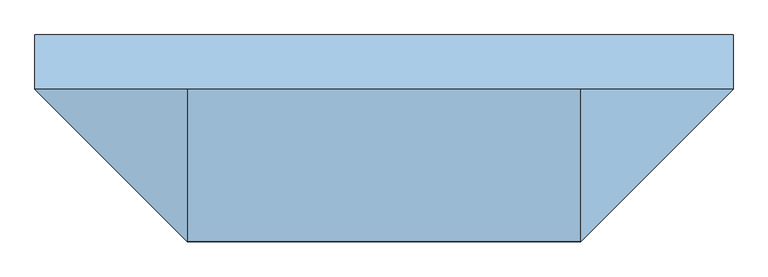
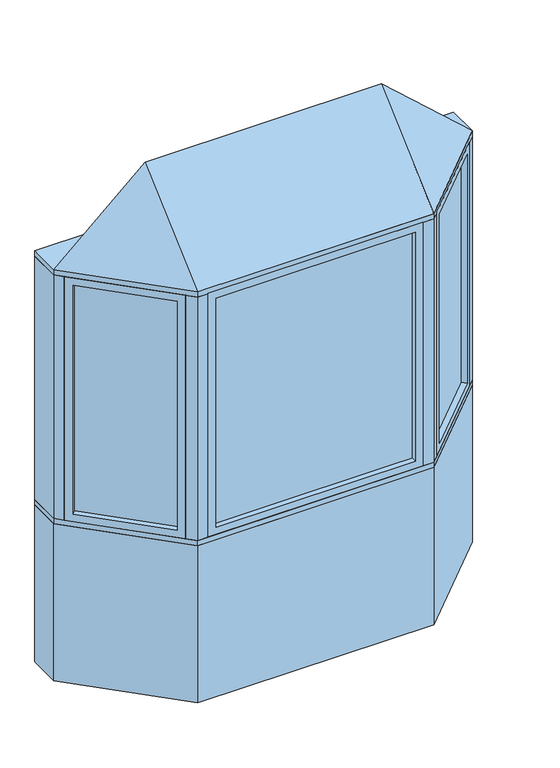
"""IFC4 building model written with IfcOpenShell, lengths in millimetres: window geometry, Pollard_Windows_Tudor Casement Bows and Bays : AML-BAY 45 AFR0612-08-500."""

from ifc_helpers import new_model, si_unit, frame, origin, origin_with_axes, place, context, project, spatial, polyline, outline, extrude, faceted_brep, source, transform, mapped, element, save


def window_a5539cdd(model_context):
    return source(origin(), model_context, "Body", "SolidModel", [
        extrude(outline(polyline([(910.5964271, -104.763169), (584.824814, -430.5347822), (581.2327115, -426.9426797), (907.0043247, -101.1710666), (910.5964271, -104.763169)])), frame((0.0, 0.0, 823.1628), z_axis=(0.0, 0.0, 1.0), x_axis=(1.0, 0.0, 0.0)), (0.0, 0.0, 1.0), 1153.6704),
        faceted_brep([(901.616171, -113.7434252, 835.8628), (919.5766833, -131.7039374, 835.8628), (919.5766833, -131.7039374, 1964.1332), (901.616171, -113.7434252, 1964.1332), (907.0043247, -101.1710666, 823.1628), (910.5964271, -104.763169, 823.1628), (910.5964271, -104.763169, 1976.8332), (907.0043247, -101.1710666, 1976.8332), (880.0635563, -92.1908105, 835.8628), (898.0240686, -110.1513227, 835.8628), (898.0240686, -110.1513227, 1964.1332), (880.0635563, -92.1908105, 1964.1332), (944.9369265, -106.3436941, 799.998), (905.4237996, -66.8305672, 799.998), (905.4237996, -66.8305672, 1999.998), (944.9369265, -106.3436941, 1999.998), (611.7655823, -439.5150383, 1964.1332), (593.8050701, -421.5545261, 1964.1332), (584.824814, -430.5347822, 1976.8332), (581.2327115, -426.9426797, 1976.8332), (590.2129677, -417.9624236, 1964.1332), (572.2524554, -400.0019114, 1964.1332), (546.8922121, -425.3621547, 1999.998), (586.4053391, -464.8752816, 1999.998), (611.7655823, -439.5150383, 835.8628), (593.8050701, -421.5545261, 835.8628), (584.824814, -430.5347822, 823.1628), (581.2327115, -426.9426797, 823.1628), (590.2129677, -417.9624236, 835.8628), (572.2524554, -400.0019114, 835.8628), (546.8922121, -425.3621547, 799.998), (586.4053391, -464.8752816, 799.998)], [[[0, 1, 2, 3]], [[4, 5, 6, 7]], [[8, 9, 10, 11]], [[12, 13, 14, 15]], [[3, 2, 16, 17]], [[7, 6, 18, 19]], [[11, 10, 20, 21]], [[15, 14, 22, 23]], [[17, 16, 24, 25]], [[19, 18, 26, 27]], [[21, 20, 28, 29]], [[23, 22, 30, 31]], [[25, 24, 1, 0]], [[5, 26, 18, 6], [3, 17, 25, 0]], [[27, 26, 5, 4]], [[7, 19, 27, 4], [9, 28, 20, 10]], [[29, 28, 9, 8]], [[13, 30, 22, 14], [11, 21, 29, 8]], [[31, 30, 13, 12]], [[15, 23, 31, 12], [1, 24, 16, 2]]]),
        extrude(outline(polyline([(-584.824814, -430.5347822), (-910.5964271, -104.763169), (-907.0043247, -101.1710666), (-581.2327115, -426.9426797), (-584.824814, -430.5347822)])), frame((0.0, 0.0, 823.1628), z_axis=(0.0, 0.0, 1.0), x_axis=(1.0, 0.0, 0.0)), (0.0, 0.0, 1.0), 1153.6704),
        faceted_brep([(-590.2129677, -417.9624236, 1964.1332), (-572.2524554, -400.0019114, 1964.1332), (-572.2524554, -400.0019114, 835.8628), (-590.2129677, -417.9624236, 835.8628), (-584.824814, -430.5347822, 1976.8332), (-581.2327115, -426.9426797, 1976.8332), (-581.2327115, -426.9426797, 823.1628), (-584.824814, -430.5347822, 823.1628), (-611.7655823, -439.5150383, 1964.1332), (-593.8050701, -421.5545261, 1964.1332), (-593.8050701, -421.5545261, 835.8628), (-611.7655823, -439.5150383, 835.8628), (-546.8922121, -425.3621547, 1999.998), (-586.4053391, -464.8752816, 1999.998), (-586.4053391, -464.8752816, 799.998), (-546.8922121, -425.3621547, 799.998), (-880.0635563, -92.1908105, 835.8628), (-898.0240686, -110.1513227, 835.8628), (-907.0043247, -101.1710666, 823.1628), (-910.5964271, -104.763169, 823.1628), (-901.616171, -113.7434252, 835.8628), (-919.5766833, -131.7039374, 835.8628), (-944.9369265, -106.3436941, 799.998), (-905.4237996, -66.8305672, 799.998), (-880.0635563, -92.1908105, 1964.1332), (-898.0240686, -110.1513227, 1964.1332), (-907.0043247, -101.1710666, 1976.8332), (-910.5964271, -104.763169, 1976.8332), (-901.616171, -113.7434252, 1964.1332), (-919.5766833, -131.7039374, 1964.1332), (-944.9369265, -106.3436941, 1999.998), (-905.4237996, -66.8305672, 1999.998)], [[[0, 1, 2, 3]], [[4, 5, 6, 7]], [[8, 9, 10, 11]], [[12, 13, 14, 15]], [[3, 2, 16, 17]], [[7, 6, 18, 19]], [[11, 10, 20, 21]], [[15, 14, 22, 23]], [[17, 16, 24, 25]], [[19, 18, 26, 27]], [[21, 20, 28, 29]], [[23, 22, 30, 31]], [[15, 23, 31, 12], [1, 24, 16, 2]], [[25, 24, 1, 0]], [[5, 26, 18, 6], [3, 17, 25, 0]], [[27, 26, 5, 4]], [[7, 19, 27, 4], [9, 28, 20, 10]], [[29, 28, 9, 8]], [[13, 30, 22, 14], [11, 21, 29, 8]], [[31, 30, 13, 12]]]),
        extrude(outline(polyline([(477.8852, -474.8306207), (-477.8852, -474.8306207), (-477.8852, -469.7506207), (477.8852, -469.7506207), (477.8852, -474.8306207)])), frame((0.0, 0.0, 823.1628), z_axis=(0.0, 0.0, 1.0), x_axis=(1.0, 0.0, 0.0)), (0.0, 0.0, 1.0), 1153.6704),
        faceted_brep([(465.1852, -474.8306207, 835.8628), (465.1852, -500.2306207, 835.8628), (465.1852, -500.2306207, 1964.1332), (465.1852, -474.8306207, 1964.1332), (477.8852, -469.7506207, 823.1628), (477.8852, -474.8306207, 823.1628), (477.8852, -474.8306207, 1976.8332), (477.8852, -469.7506207, 1976.8332), (465.1852, -444.3506207, 835.8628), (465.1852, -469.7506207, 835.8628), (465.1852, -469.7506207, 1964.1332), (465.1852, -444.3506207, 1964.1332), (501.05, -500.2306207, 799.998), (501.05, -444.3506207, 799.998), (501.05, -444.3506207, 1999.998), (501.05, -500.2306207, 1999.998), (-465.1852, -500.2306207, 1964.1332), (-465.1852, -474.8306207, 1964.1332), (-477.8852, -474.8306207, 1976.8332), (-477.8852, -469.7506207, 1976.8332), (-465.1852, -469.7506207, 1964.1332), (-465.1852, -444.3506207, 1964.1332), (-501.05, -444.3506207, 1999.998), (-501.05, -500.2306207, 1999.998), (-465.1852, -500.2306207, 835.8628), (-465.1852, -474.8306207, 835.8628), (-477.8852, -474.8306207, 823.1628), (-477.8852, -469.7506207, 823.1628), (-465.1852, -469.7506207, 835.8628), (-465.1852, -444.3506207, 835.8628), (-501.05, -444.3506207, 799.998), (-501.05, -500.2306207, 799.998)], [[[0, 1, 2, 3]], [[4, 5, 6, 7]], [[8, 9, 10, 11]], [[12, 13, 14, 15]], [[3, 2, 16, 17]], [[7, 6, 18, 19]], [[11, 10, 20, 21]], [[15, 14, 22, 23]], [[17, 16, 24, 25]], [[19, 18, 26, 27]], [[21, 20, 28, 29]], [[23, 22, 30, 31]], [[15, 23, 31, 12], [1, 24, 16, 2]], [[25, 24, 1, 0]], [[5, 26, 18, 6], [3, 17, 25, 0]], [[27, 26, 5, 4]], [[7, 19, 27, 4], [9, 28, 20, 10]], [[29, 28, 9, 8]], [[13, 30, 22, 14], [11, 21, 29, 8]], [[31, 30, 13, 12]]]),
        faceted_brep([(976.5, -74.7806207, 2025.398), (551.05, -500.2306207, 2025.398), (-551.05, -500.2306207, 2025.398), (-976.5, -74.7806207, 2025.398), (-551.05, -74.7806207, 2406.398), (551.05, -74.7806207, 2406.398)], [[[0, 1, 2, 3]], [[3, 2, 4]], [[2, 1, 5, 4]], [[1, 0, 5]], [[0, 3, 4, 5]]]),
        extrude(outline(polyline([(-976.5, 77.6193793), (976.5, 77.6193793), (976.5, -74.7806207), (551.05, -500.2306207), (-551.05, -500.2306207), (-976.5, -74.7806207), (-976.5, 77.6193793)])), frame((0.0, 0.0, 1999.998), z_axis=(0.0, 0.0, 1.0), x_axis=(1.0, 0.0, 0.0)), (0.0, 0.0, 1.0), 25.4),
        extrude(outline(polyline([(-976.5, -74.7806207), (-976.5, 77.6193793), (-913.3738531, 77.6193793), (-913.3738531, -74.7806207), (-944.9369265, -106.3436941), (-976.5, -74.7806207)])), frame((0.0, 0.0, 799.998), z_axis=(0.0, 0.0, 1.0), x_axis=(1.0, 0.0, 0.0)), (0.0, 0.0, 1.0), 1200.0),
        extrude(outline(polyline([(976.5, 77.6193793), (976.5, -74.7806207), (944.9369265, -106.3436941), (913.3738531, -74.7806207), (913.3738531, 77.6193793), (976.5, 77.6193793)])), frame((0.0, 0.0, 799.998), z_axis=(0.0, 0.0, 1.0), x_axis=(1.0, 0.0, 0.0)), (0.0, 0.0, 1.0), 1200.0),
        extrude(outline(polyline([(551.05, -500.2306207), (501.05, -500.2306207), (501.05, -450.2306207), (530.3393219, -450.2306207), (551.05, -429.5199425), (586.4053391, -464.8752816), (551.05, -500.2306207)])), frame((0.0, 0.0, 799.998), z_axis=(0.0, 0.0, 1.0), x_axis=(1.0, 0.0, 0.0)), (0.0, 0.0, 1.0), 1200.0),
        extrude(outline(polyline([(-551.05, -500.2306207), (-586.4053391, -464.8752816), (-551.05, -429.5199425), (-530.3393219, -450.2306207), (-501.05, -450.2306207), (-501.05, -500.2306207), (-551.05, -500.2306207)])), frame((0.0, 0.0, 799.998), z_axis=(0.0, 0.0, 1.0), x_axis=(1.0, 0.0, 0.0)), (0.0, 0.0, 1.0), 1200.0),
        extrude(outline(polyline([(-551.05, -500.2306207), (-976.5, -74.7806207), (-976.5, 77.6193793), (-913.3738531, 77.6193793), (-487.9238531, -347.8306207), (487.9238531, -347.8306207), (913.3738531, 77.6193793), (976.5, 77.6193793), (976.5, -74.7806207), (551.05, -500.2306207), (-551.05, -500.2306207)])), frame((0.0, 0.0, 774.598), z_axis=(0.0, 0.0, 1.0), x_axis=(1.0, 0.0, 0.0)), (0.0, 0.0, 1.0), 25.4),
        extrude(outline(polyline([(-976.5, -74.7806207), (-976.5, 77.6193793), (-913.3738531, 77.6193793), (-487.9238531, -347.8306207), (487.9238531, -347.8306207), (913.3738531, 77.6193793), (976.5, 77.6193793), (976.5, -74.7806207), (551.05, -500.2306207), (-551.05, -500.2306207), (-976.5, -74.7806207)])), origin_with_axes(), (0.0, 0.0, 1.0), 774.598),
    ])


if __name__ == "__main__":
    model = new_model("IFC4")
    model_context = context("Model", 3, world=origin())
    ifc_project = project(units=[si_unit("LENGTHUNIT", "METRE", prefix="MILLI")], contexts=[model_context])
    site = spatial("IfcSite", under=ifc_project)
    building = spatial("IfcBuilding", under=site)
    placement = place(None, origin())
    window_shape = window_a5539cdd(model_context)
    element("IfcWindow", 1, ObjectType="Pollard_Windows_Tudor Casement Bows and Bays : AML-BAY 45 AFR0612-08-500", at=placement, inside=building, context=model_context, shape_type="MappedRepresentation", body=[
        mapped(window_shape, transform((0.0, 0.0, 0.0), x_axis=(1.0, 0.0, 0.0), y_axis=(0.0, 1.0, 0.0), z_axis=(0.0, 0.0, 1.0))),
    ])
    save(model, "model.ifc")
